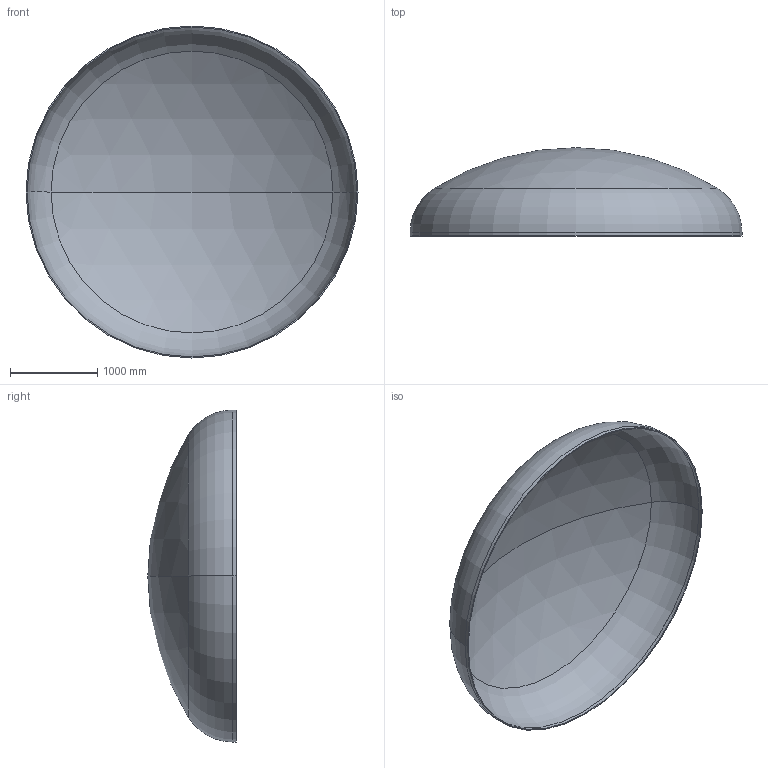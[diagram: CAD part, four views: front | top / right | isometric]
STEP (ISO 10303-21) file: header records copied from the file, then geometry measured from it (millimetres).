
FILE_DESCRIPTION (( 'STEP AP203' ), '1' );
FILE_NAME ('DIN 28013 Korbbogenform_-_Boden DIN 28013 - 3800 x 40 - I - s=12.step', '2016-07-01T21:02:56', ( '' ), ( '' ), 'SwSTEP 2.0', 'SolidWorks 2013', '' );
FILE_SCHEMA (( 'CONFIG_CONTROL_DESIGN' ));
Length unit declared in the file: millimetre
Products named in the file (1): DIN 28013 Korbbogenform_-_Boden DIN 28013 - 3800 x 40 - I - s=12
Bounding box: 3800 x 1011.32 x 3800 mm (x, y, z)
Volume: 193414929.6 mm3; surface area: 32378914.4 mm2
Topology: 1 solids, 1 shells, 13 faces, 24 edges, 14 vertices
Faces by surface type: torus 4, cylinder 4, sphere 4, plane 1
Entity records: 407 total; most frequent: DIRECTION 72, CARTESIAN_POINT 52, ORIENTED_EDGE 48, AXIS2_PLACEMENT_3D 34, EDGE_CURVE 24, CIRCLE 20, VERTEX_POINT 14, EDGE_LOOP 14
